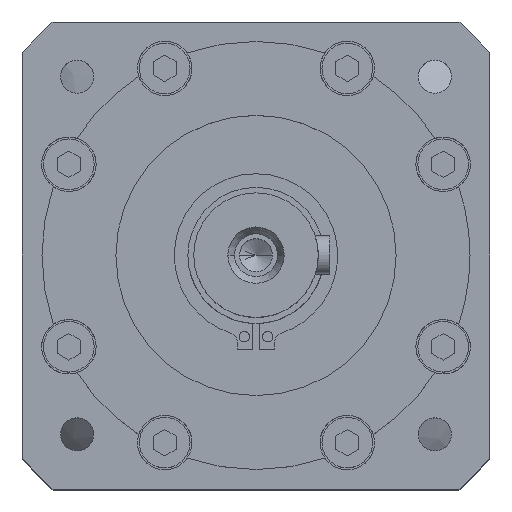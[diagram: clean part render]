
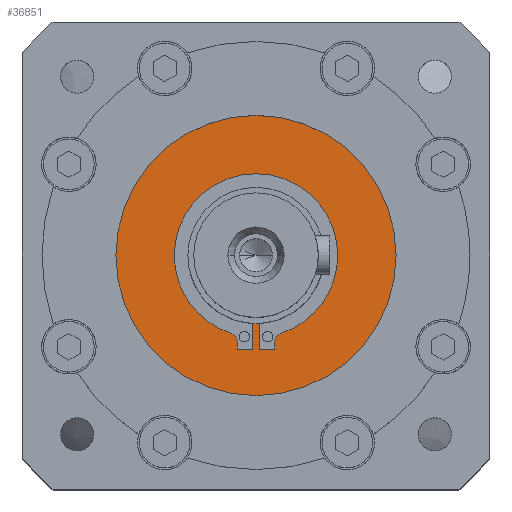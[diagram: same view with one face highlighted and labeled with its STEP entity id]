
A CAD part, top view. The second image highlights one B-rep face of the part: STEP entity #36851.
In plain terms, the highlighted planar face has unit normal (0, 0, 1).
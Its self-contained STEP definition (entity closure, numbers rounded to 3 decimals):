
#585 = VECTOR ( 'NONE', #36004, 1000. ) ;
#1397 = DIRECTION ( 'NONE',  ( 0., 0., 1. ) ) ;
#1399 = CARTESIAN_POINT ( 'NONE',  ( -0.85, -24.279, -2.7 ) ) ;
#1549 = CARTESIAN_POINT ( 'NONE',  ( 0., 0., -2.7 ) ) ;
#1667 = CARTESIAN_POINT ( 'NONE',  ( 0., -24.279, -2.7 ) ) ;
#1680 = DIRECTION ( 'NONE',  ( 1., 0., 0. ) ) ;
#1767 = EDGE_CURVE ( 'NONE', #22188, #44426, #24669, .T. ) ;
#1790 = LINE ( 'NONE', #13613, #585 ) ;
#1945 = AXIS2_PLACEMENT_3D ( 'NONE', #5301, #31570, #9143 ) ;
#2534 = CIRCLE ( 'NONE', #9590, 0.5 ) ;
#2799 = LINE ( 'NONE', #30673, #21706 ) ;
#3032 = ORIENTED_EDGE ( 'NONE', *, *, #22164, .F. ) ;
#3295 = EDGE_CURVE ( 'NONE', #47114, #42486, #48205, .T. ) ;
#4526 = DIRECTION ( 'NONE',  ( 0., -1., 0. ) ) ;
#4586 = AXIS2_PLACEMENT_3D ( 'NONE', #19563, #45454, #23288 ) ;
#4888 = AXIS2_PLACEMENT_3D ( 'NONE', #33636, #11245, #37376 ) ;
#5271 = ORIENTED_EDGE ( 'NONE', *, *, #31768, .F. ) ;
#5280 = DIRECTION ( 'NONE',  ( 0., 0., -1. ) ) ;
#5301 = CARTESIAN_POINT ( 'NONE',  ( 0., 0., -2.7 ) ) ;
#5414 = CIRCLE ( 'NONE', #35737, 17.5 ) ;
#5548 = DIRECTION ( 'NONE',  ( 0., 0., -1. ) ) ;
#5764 = CARTESIAN_POINT ( 'NONE',  ( 36., 0., -2.7 ) ) ;
#5889 = ORIENTED_EDGE ( 'NONE', *, *, #1767, .F. ) ;
#6669 = AXIS2_PLACEMENT_3D ( 'NONE', #35430, #13061, #39161 ) ;
#7929 = VERTEX_POINT ( 'NONE', #44190 ) ;
#8113 = AXIS2_PLACEMENT_3D ( 'NONE', #27789, #5280, #31550 ) ;
#8543 = CARTESIAN_POINT ( 'NONE',  ( 6.568, -19.946, -2.7 ) ) ;
#8663 = CARTESIAN_POINT ( 'NONE',  ( -4.85, -22.321, -2.7 ) ) ;
#8905 = EDGE_LOOP ( 'NONE', ( #27013, #37903 ) ) ;
#9021 = DIRECTION ( 'NONE',  ( 0., 0., 1. ) ) ;
#9143 = DIRECTION ( 'NONE',  ( -1., 0., 0. ) ) ;
#9421 = LINE ( 'NONE', #21136, #28146 ) ;
#9590 = AXIS2_PLACEMENT_3D ( 'NONE', #33493, #11087, #37233 ) ;
#9757 = EDGE_CURVE ( 'NONE', #44426, #36434, #1790, .T. ) ;
#10334 = CARTESIAN_POINT ( 'NONE',  ( -6.568, -19.946, -2.7 ) ) ;
#10631 = CARTESIAN_POINT ( 'NONE',  ( 0.85, 0., -2.7 ) ) ;
#10941 = AXIS2_PLACEMENT_3D ( 'NONE', #1549, #5548, #31835 ) ;
#11087 = DIRECTION ( 'NONE',  ( 0., 0., 1. ) ) ;
#11140 = EDGE_CURVE ( 'NONE', #15271, #42547, #47284, .T. ) ;
#11143 = CARTESIAN_POINT ( 'NONE',  ( -21., 0., -2.7 ) ) ;
#11245 = DIRECTION ( 'NONE',  ( 0., 0., -1. ) ) ;
#12542 = AXIS2_PLACEMENT_3D ( 'NONE', #22293, #48107, #26054 ) ;
#12918 = VERTEX_POINT ( 'NONE', #41022 ) ;
#13061 = DIRECTION ( 'NONE',  ( 0., 0., 1. ) ) ;
#13224 = EDGE_CURVE ( 'NONE', #29924, #47114, #36335, .T. ) ;
#13486 = CARTESIAN_POINT ( 'NONE',  ( 4.35, -23.779, -2.7 ) ) ;
#13569 = VECTOR ( 'NONE', #44666, 1000. ) ;
#13613 = CARTESIAN_POINT ( 'NONE',  ( -0.85, 0., -2.7 ) ) ;
#14415 = VERTEX_POINT ( 'NONE', #8663 ) ;
#15101 = CIRCLE ( 'NONE', #4586, 36. ) ;
#15271 = VERTEX_POINT ( 'NONE', #45678 ) ;
#16312 = CARTESIAN_POINT ( 'NONE',  ( 0.85, -17.479, -2.7 ) ) ;
#16448 = ORIENTED_EDGE ( 'NONE', *, *, #13224, .F. ) ;
#17263 = DIRECTION ( 'NONE',  ( -1., 0., 0. ) ) ;
#17385 = DIRECTION ( 'NONE',  ( 0., 1., 0. ) ) ;
#17670 = EDGE_CURVE ( 'NONE', #27701, #14415, #46314, .T. ) ;
#17740 = ORIENTED_EDGE ( 'NONE', *, *, #44168, .F. ) ;
#19563 = CARTESIAN_POINT ( 'NONE',  ( 0., 0., -2.7 ) ) ;
#20188 = AXIS2_PLACEMENT_3D ( 'NONE', #13486, #39577, #17263 ) ;
#21136 = CARTESIAN_POINT ( 'NONE',  ( 4.85, 0., -2.7 ) ) ;
#21706 = VECTOR ( 'NONE', #4526, 1000. ) ;
#22015 = EDGE_CURVE ( 'NONE', #14415, #38118, #2799, .T. ) ;
#22164 = EDGE_CURVE ( 'NONE', #42486, #12918, #36895, .T. ) ;
#22188 = VERTEX_POINT ( 'NONE', #36047 ) ;
#22293 = CARTESIAN_POINT ( 'NONE',  ( 0., 0., -2.7 ) ) ;
#22476 = CARTESIAN_POINT ( 'NONE',  ( 0.85, -24.279, -2.7 ) ) ;
#22503 = CARTESIAN_POINT ( 'NONE',  ( -4.85, -23.779, -2.7 ) ) ;
#22884 = ORIENTED_EDGE ( 'NONE', *, *, #28480, .F. ) ;
#23288 = DIRECTION ( 'NONE',  ( 1., 0., 0. ) ) ;
#23990 = CARTESIAN_POINT ( 'NONE',  ( 0., 0., -2.7 ) ) ;
#24504 = ORIENTED_EDGE ( 'NONE', *, *, #3295, .F. ) ;
#24669 = LINE ( 'NONE', #44818, #13569 ) ;
#25122 = FACE_OUTER_BOUND ( 'NONE', #8905, .T. ) ;
#25461 = CIRCLE ( 'NONE', #12542, 36. ) ;
#26054 = DIRECTION ( 'NONE',  ( 1., 0., 0. ) ) ;
#27013 = ORIENTED_EDGE ( 'NONE', *, *, #38200, .T. ) ;
#27255 = ORIENTED_EDGE ( 'NONE', *, *, #9757, .F. ) ;
#27701 = VERTEX_POINT ( 'NONE', #10334 ) ;
#27762 = DIRECTION ( 'NONE',  ( -1., 0., 0. ) ) ;
#27789 = CARTESIAN_POINT ( 'NONE',  ( -7.35, -22.321, -2.7 ) ) ;
#27794 = EDGE_CURVE ( 'NONE', #7929, #47855, #25461, .T. ) ;
#28061 = PLANE ( 'NONE',  #10941 ) ;
#28146 = VECTOR ( 'NONE', #17385, 1000. ) ;
#28480 = EDGE_CURVE ( 'NONE', #36434, #29924, #5414, .T. ) ;
#28647 = VECTOR ( 'NONE', #1680, 1000. ) ;
#29470 = CARTESIAN_POINT ( 'NONE',  ( 4.35, -24.279, -2.7 ) ) ;
#29924 = VERTEX_POINT ( 'NONE', #16312 ) ;
#30673 = CARTESIAN_POINT ( 'NONE',  ( -4.85, 0., -2.7 ) ) ;
#30858 = ORIENTED_EDGE ( 'NONE', *, *, #48021, .F. ) ;
#31435 = CARTESIAN_POINT ( 'NONE',  ( 0., 0., -2.7 ) ) ;
#31449 = ORIENTED_EDGE ( 'NONE', *, *, #22015, .F. ) ;
#31550 = DIRECTION ( 'NONE',  ( -1., 0., 0. ) ) ;
#31570 = DIRECTION ( 'NONE',  ( 0., 0., 1. ) ) ;
#31768 = EDGE_CURVE ( 'NONE', #42547, #27701, #41648, .T. ) ;
#31835 = DIRECTION ( 'NONE',  ( -1., 0., 0. ) ) ;
#32056 = ORIENTED_EDGE ( 'NONE', *, *, #35182, .F. ) ;
#32219 = VERTEX_POINT ( 'NONE', #8543 ) ;
#33493 = CARTESIAN_POINT ( 'NONE',  ( -4.35, -23.779, -2.7 ) ) ;
#33636 = CARTESIAN_POINT ( 'NONE',  ( 7.35, -22.321, -2.7 ) ) ;
#33971 = EDGE_CURVE ( 'NONE', #12918, #35566, #9421, .T. ) ;
#33989 = VECTOR ( 'NONE', #40491, 1000. ) ;
#34035 = EDGE_LOOP ( 'NONE', ( #17740, #31449, #45536, #5271, #35343, #32056, #30858, #40064, #3032, #24504, #16448, #22884, #27255, #5889 ) ) ;
#35163 = CARTESIAN_POINT ( 'NONE',  ( -0.85, -17.479, -2.7 ) ) ;
#35182 = EDGE_CURVE ( 'NONE', #32219, #15271, #44345, .T. ) ;
#35205 = DIRECTION ( 'NONE',  ( -1., 0., 0. ) ) ;
#35343 = ORIENTED_EDGE ( 'NONE', *, *, #11140, .F. ) ;
#35430 = CARTESIAN_POINT ( 'NONE',  ( 0., 0., -2.7 ) ) ;
#35566 = VERTEX_POINT ( 'NONE', #37603 ) ;
#35737 = AXIS2_PLACEMENT_3D ( 'NONE', #23990, #1397, #27762 ) ;
#36004 = DIRECTION ( 'NONE',  ( 0., 1., 0. ) ) ;
#36047 = CARTESIAN_POINT ( 'NONE',  ( -4.35, -24.279, -2.7 ) ) ;
#36335 = LINE ( 'NONE', #10631, #33989 ) ;
#36434 = VERTEX_POINT ( 'NONE', #35163 ) ;
#36851 = ADVANCED_FACE ( 'NONE', ( #25122, #44778 ), #28061, .F. ) ;
#36895 = CIRCLE ( 'NONE', #20188, 0.5 ) ;
#37233 = DIRECTION ( 'NONE',  ( -1., 0., 0. ) ) ;
#37376 = DIRECTION ( 'NONE',  ( -1., 0., 0. ) ) ;
#37603 = CARTESIAN_POINT ( 'NONE',  ( 4.85, -22.321, -2.7 ) ) ;
#37903 = ORIENTED_EDGE ( 'NONE', *, *, #27794, .T. ) ;
#38118 = VERTEX_POINT ( 'NONE', #22503 ) ;
#38200 = EDGE_CURVE ( 'NONE', #47855, #7929, #15101, .T. ) ;
#39161 = DIRECTION ( 'NONE',  ( -1., 0., 0. ) ) ;
#39577 = DIRECTION ( 'NONE',  ( 0., 0., 1. ) ) ;
#40064 = ORIENTED_EDGE ( 'NONE', *, *, #33971, .F. ) ;
#40491 = DIRECTION ( 'NONE',  ( 0., -1., 0. ) ) ;
#41022 = CARTESIAN_POINT ( 'NONE',  ( 4.85, -23.779, -2.7 ) ) ;
#41499 = AXIS2_PLACEMENT_3D ( 'NONE', #31435, #9021, #35205 ) ;
#41648 = CIRCLE ( 'NONE', #6669, 21. ) ;
#42486 = VERTEX_POINT ( 'NONE', #29470 ) ;
#42547 = VERTEX_POINT ( 'NONE', #11143 ) ;
#44168 = EDGE_CURVE ( 'NONE', #38118, #22188, #2534, .T. ) ;
#44190 = CARTESIAN_POINT ( 'NONE',  ( -36., 0., -2.7 ) ) ;
#44345 = CIRCLE ( 'NONE', #41499, 21. ) ;
#44426 = VERTEX_POINT ( 'NONE', #1399 ) ;
#44666 = DIRECTION ( 'NONE',  ( 1., 0., 0. ) ) ;
#44778 = FACE_BOUND ( 'NONE', #34035, .T. ) ;
#44818 = CARTESIAN_POINT ( 'NONE',  ( 0., -24.279, -2.7 ) ) ;
#45454 = DIRECTION ( 'NONE',  ( 0., 0., 1. ) ) ;
#45536 = ORIENTED_EDGE ( 'NONE', *, *, #17670, .F. ) ;
#45678 = CARTESIAN_POINT ( 'NONE',  ( 21., 0., -2.7 ) ) ;
#46314 = CIRCLE ( 'NONE', #8113, 2.5 ) ;
#47114 = VERTEX_POINT ( 'NONE', #22476 ) ;
#47284 = CIRCLE ( 'NONE', #1945, 21. ) ;
#47855 = VERTEX_POINT ( 'NONE', #5764 ) ;
#48021 = EDGE_CURVE ( 'NONE', #35566, #32219, #48339, .T. ) ;
#48107 = DIRECTION ( 'NONE',  ( 0., 0., 1. ) ) ;
#48205 = LINE ( 'NONE', #1667, #28647 ) ;
#48339 = CIRCLE ( 'NONE', #4888, 2.5 ) ;
